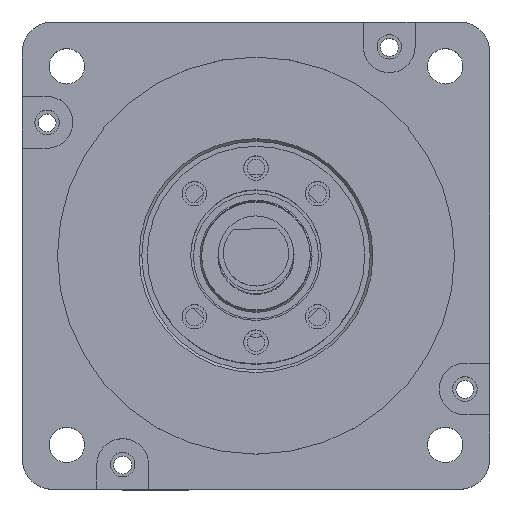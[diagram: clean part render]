
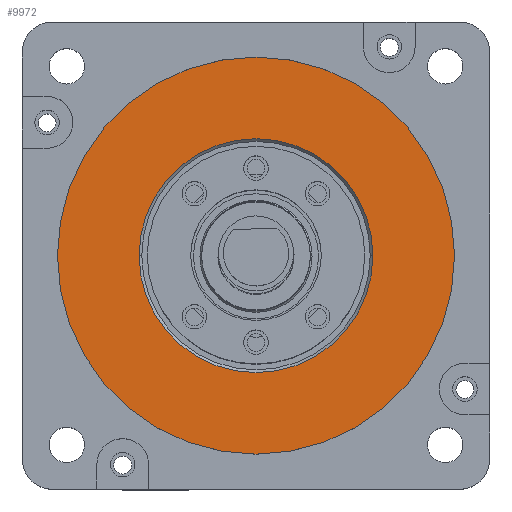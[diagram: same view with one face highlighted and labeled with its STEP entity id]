
A CAD part, top view. The second image highlights one B-rep face of the part: STEP entity #9972.
In plain terms, the highlighted planar face has unit normal (0, 0, 1).
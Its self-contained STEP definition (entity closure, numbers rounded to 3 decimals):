
#375 = EDGE_LOOP ( 'NONE', ( #8127, #8060 ) ) ;
#642 = EDGE_LOOP ( 'NONE', ( #8207, #8416 ) ) ;
#870 = CIRCLE ( 'NONE', #1101, 21.5 ) ;
#900 = CIRCLE ( 'NONE', #10472, 36.5 ) ;
#952 = CIRCLE ( 'NONE', #1245, 36.5 ) ;
#1101 = AXIS2_PLACEMENT_3D ( 'NONE', #2889, #3475, #2849 ) ;
#1245 = AXIS2_PLACEMENT_3D ( 'NONE', #2817, #2710, #2661 ) ;
#1632 = CARTESIAN_POINT ( 'NONE',  ( -30.027, -0.138, 39.6 ) ) ;
#1708 = CARTESIAN_POINT ( 'NONE',  ( -45.027, -0.138, 39.6 ) ) ;
#1815 = CARTESIAN_POINT ( 'NONE',  ( 27.973, -0.138, 39.6 ) ) ;
#2042 = CARTESIAN_POINT ( 'NONE',  ( 12.973, -0.138, 39.6 ) ) ;
#2486 = AXIS2_PLACEMENT_3D ( 'NONE', #6084, #6086, #6088 ) ;
#2527 = FACE_BOUND ( 'NONE', #375, .T. ) ;
#2661 = DIRECTION ( 'NONE',  ( -1., 0., 0. ) ) ;
#2710 = DIRECTION ( 'NONE',  ( 0., 0., -1. ) ) ;
#2817 = CARTESIAN_POINT ( 'NONE',  ( -8.527, -0.138, 39.6 ) ) ;
#2849 = DIRECTION ( 'NONE',  ( -1., 0., 0. ) ) ;
#2889 = CARTESIAN_POINT ( 'NONE',  ( -8.527, -0.138, 39.6 ) ) ;
#2890 = FACE_OUTER_BOUND ( 'NONE', #642, .T. ) ;
#3475 = DIRECTION ( 'NONE',  ( 0., 0., -1. ) ) ;
#4706 = VERTEX_POINT ( 'NONE', #1815 ) ;
#4876 = VERTEX_POINT ( 'NONE', #1708 ) ;
#4937 = VERTEX_POINT ( 'NONE', #2042 ) ;
#4938 = VERTEX_POINT ( 'NONE', #1632 ) ;
#5767 = DIRECTION ( 'NONE',  ( 0., 0., -1. ) ) ;
#5837 = DIRECTION ( 'NONE',  ( -1., 0., 0. ) ) ;
#5967 = CARTESIAN_POINT ( 'NONE',  ( -8.527, -0.138, 39.6 ) ) ;
#6082 = PLANE ( 'NONE',  #2486 ) ;
#6084 = CARTESIAN_POINT ( 'NONE',  ( -8.527, -0.138, 39.6 ) ) ;
#6086 = DIRECTION ( 'NONE',  ( 0., 0., -1. ) ) ;
#6088 = DIRECTION ( 'NONE',  ( -1., 0., 0. ) ) ;
#8060 = ORIENTED_EDGE ( 'NONE', *, *, #10953, .T. ) ;
#8127 = ORIENTED_EDGE ( 'NONE', *, *, #10639, .T. ) ;
#8207 = ORIENTED_EDGE ( 'NONE', *, *, #10959, .F. ) ;
#8416 = ORIENTED_EDGE ( 'NONE', *, *, #11358, .F. ) ;
#8942 = CARTESIAN_POINT ( 'NONE',  ( -8.527, -0.138, 39.6 ) ) ;
#8948 = DIRECTION ( 'NONE',  ( 0., 0., -1. ) ) ;
#8952 = DIRECTION ( 'NONE',  ( -1., 0., 0. ) ) ;
#9697 = AXIS2_PLACEMENT_3D ( 'NONE', #5967, #5767, #5837 ) ;
#9972 = ADVANCED_FACE ( 'NONE', ( #2527, #2890 ), #6082, .F. ) ;
#10040 = CIRCLE ( 'NONE', #9697, 21.5 ) ;
#10472 = AXIS2_PLACEMENT_3D ( 'NONE', #8942, #8948, #8952 ) ;
#10639 = EDGE_CURVE ( 'NONE', #4937, #4938, #10040, .T. ) ;
#10953 = EDGE_CURVE ( 'NONE', #4938, #4937, #870, .T. ) ;
#10959 = EDGE_CURVE ( 'NONE', #4706, #4876, #952, .T. ) ;
#11358 = EDGE_CURVE ( 'NONE', #4876, #4706, #900, .T. ) ;
